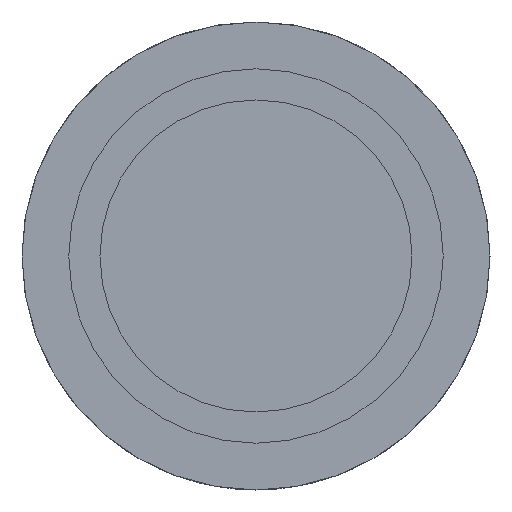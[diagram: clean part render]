
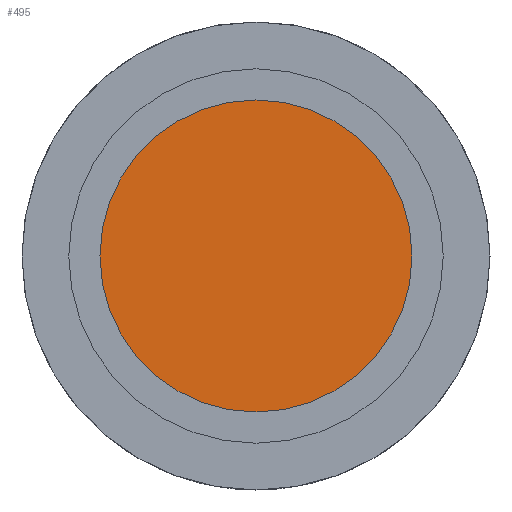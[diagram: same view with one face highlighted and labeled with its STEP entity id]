
A CAD part, left-side view. The second image highlights one B-rep face of the part: STEP entity #495.
In plain terms, the highlighted planar face has unit normal (-1, 0, 0).
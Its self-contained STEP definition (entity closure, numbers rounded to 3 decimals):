
#472=CARTESIAN_POINT('',(0.0,0.0,5.));
#473=VERTEX_POINT('',#472);
#474=CARTESIAN_POINT('',(0.0,0.0,0.0));
#475=DIRECTION('',(-1.0,0.0,0.0));
#476=DIRECTION('',(0.0,0.0,1.0));
#477=AXIS2_PLACEMENT_3D('',#474,#475,#476);
#478=CIRCLE('',#477,5.);
#479=EDGE_CURVE('',#473,#473,#478,.T.);
#487=CARTESIAN_POINT('',(0.0,0.0,2.5));
#488=DIRECTION('',(-1.0,0.0,0.0));
#489=DIRECTION('',(0.0,0.0,1.0));
#490=AXIS2_PLACEMENT_3D('',#487,#488,#489);
#491=PLANE('',#490);
#492=ORIENTED_EDGE('',*,*,#479,.T.);
#493=EDGE_LOOP('',(#492));
#494=FACE_OUTER_BOUND('',#493,.T.);
#495=ADVANCED_FACE('',(#494),#491,.T.);
